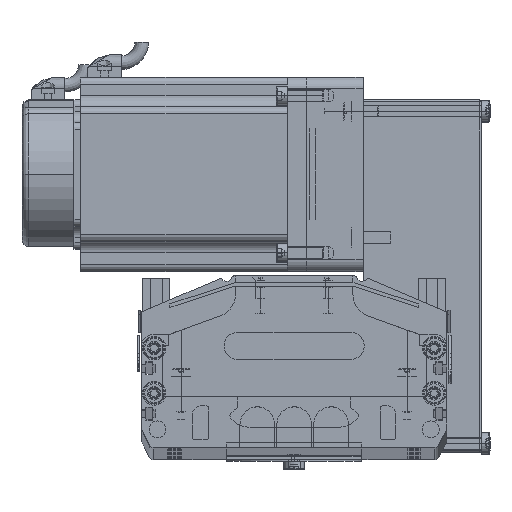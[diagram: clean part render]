
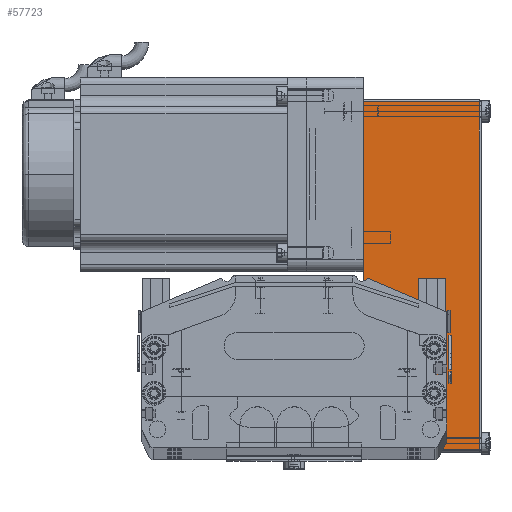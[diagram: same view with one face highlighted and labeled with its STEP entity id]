
A CAD part, top view. The second image highlights one B-rep face of the part: STEP entity #57723.
In plain terms, the highlighted planar face has unit normal (0, 0, 1) as drawn and (0, -1, 0) by its records, which use the part's own axes.
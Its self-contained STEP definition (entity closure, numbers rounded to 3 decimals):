
#54010 = LINE ( 'NONE', #54208, #54206 ) ;
#54014 = LINE ( 'NONE', #54081, #54165 ) ;
#54026 = DIRECTION ( 'NONE',  ( -1., 0., 0. ) ) ;
#54027 = CARTESIAN_POINT ( 'NONE',  ( -123.2, -40., 51.5 ) ) ;
#54081 = CARTESIAN_POINT ( 'NONE',  ( -123.2, -40., 52.5 ) ) ;
#54163 = CARTESIAN_POINT ( 'NONE',  ( -123.2, -40., 0. ) ) ;
#54164 = DIRECTION ( 'NONE',  ( 0., 0., -1. ) ) ;
#54165 = VECTOR ( 'NONE', #54164, 1000. ) ;
#54172 = LINE ( 'NONE', #54289, #54287 ) ;
#54205 = DIRECTION ( 'NONE',  ( -1., 0., 0. ) ) ;
#54206 = VECTOR ( 'NONE', #54205, 1000. ) ;
#54208 = CARTESIAN_POINT ( 'NONE',  ( 32., -40., 51.5 ) ) ;
#54286 = DIRECTION ( 'NONE',  ( 1., 0., 0. ) ) ;
#54287 = VECTOR ( 'NONE', #54286, 1000. ) ;
#54289 = CARTESIAN_POINT ( 'NONE',  ( 32., -40., 0. ) ) ;
#54293 = FACE_OUTER_BOUND ( 'NONE', #57659, .T. ) ;
#54319 = PLANE ( 'NONE',  #54361 ) ;
#54331 = DIRECTION ( 'NONE',  ( 0., 1., 0. ) ) ;
#54361 = AXIS2_PLACEMENT_3D ( 'NONE', #54366, #54331, #54026 ) ;
#54366 = CARTESIAN_POINT ( 'NONE',  ( 32., -40., 52.5 ) ) ;
#54389 = CARTESIAN_POINT ( 'NONE',  ( 31., -40., 51.5 ) ) ;
#54452 = CARTESIAN_POINT ( 'NONE',  ( 31., -40., 0. ) ) ;
#54658 = LINE ( 'NONE', #54701, #54972 ) ;
#54701 = CARTESIAN_POINT ( 'NONE',  ( 31., -40., 52.5 ) ) ;
#54971 = DIRECTION ( 'NONE',  ( 0., 0., 1. ) ) ;
#54972 = VECTOR ( 'NONE', #54971, 1000. ) ;
#56362 = EDGE_CURVE ( 'NONE', #58030, #56646, #54172, .T. ) ;
#56646 = VERTEX_POINT ( 'NONE', #54452 ) ;
#57659 = EDGE_LOOP ( 'NONE', ( #57718, #58000, #57851, #57714 ) ) ;
#57671 = VERTEX_POINT ( 'NONE', #54389 ) ;
#57714 = ORIENTED_EDGE ( 'NONE', *, *, #57969, .T. ) ;
#57718 = ORIENTED_EDGE ( 'NONE', *, *, #56362, .T. ) ;
#57723 = ADVANCED_FACE ( 'NONE', ( #54293 ), #54319, .F. ) ;
#57728 = VERTEX_POINT ( 'NONE', #54027 ) ;
#57805 = EDGE_CURVE ( 'NONE', #57671, #57728, #54010, .T. ) ;
#57851 = ORIENTED_EDGE ( 'NONE', *, *, #57805, .T. ) ;
#57969 = EDGE_CURVE ( 'NONE', #57728, #58030, #54014, .T. ) ;
#58000 = ORIENTED_EDGE ( 'NONE', *, *, #58773, .T. ) ;
#58030 = VERTEX_POINT ( 'NONE', #54163 ) ;
#58773 = EDGE_CURVE ( 'NONE', #56646, #57671, #54658, .T. ) ;
